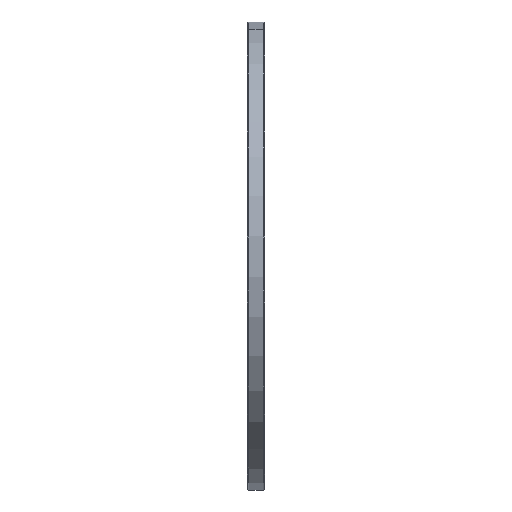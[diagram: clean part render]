
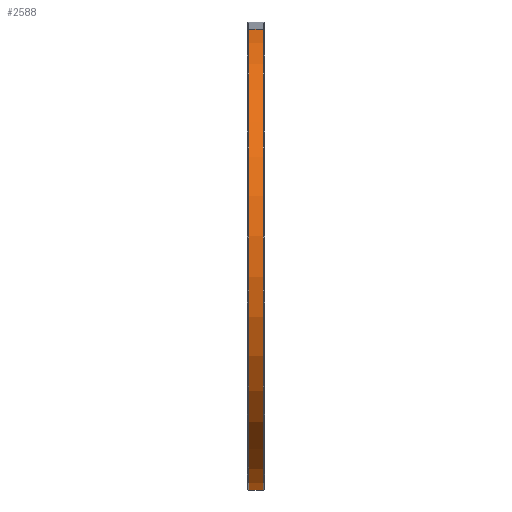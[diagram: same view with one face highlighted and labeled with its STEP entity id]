
A CAD part, left-side view. The second image highlights one B-rep face of the part: STEP entity #2588.
In plain terms, the highlighted cylindrical face has radius 162.83 mm (diameter 325.66 mm), a partial arc.
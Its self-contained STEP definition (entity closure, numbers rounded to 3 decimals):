
#833 = CARTESIAN_POINT ( 'NONE',  ( 0., 11., 0. ) ) ;
#1131 = DIRECTION ( 'NONE',  ( 0., -1., 0. ) ) ;
#1467 = VERTEX_POINT ( 'NONE', #5600 ) ;
#1664 = CARTESIAN_POINT ( 'NONE',  ( 0., 1., 0. ) ) ;
#1677 = EDGE_CURVE ( 'NONE', #4303, #4279, #2002, .T. ) ;
#1862 = ORIENTED_EDGE ( 'NONE', *, *, #3821, .T. ) ;
#2002 = CIRCLE ( 'NONE', #5078, 162.83 ) ;
#2020 = AXIS2_PLACEMENT_3D ( 'NONE', #5466, #1131, #3285 ) ;
#2101 = CARTESIAN_POINT ( 'NONE',  ( -42.429, 0., 157.205 ) ) ;
#2299 = CARTESIAN_POINT ( 'NONE',  ( -42.429, 1., 157.205 ) ) ;
#2370 = ORIENTED_EDGE ( 'NONE', *, *, #1677, .T. ) ;
#2535 = LINE ( 'NONE', #2101, #3129 ) ;
#2555 = CARTESIAN_POINT ( 'NONE',  ( -42.429, 11., 157.205 ) ) ;
#2562 = DIRECTION ( 'NONE',  ( 0., -1., 0. ) ) ;
#2588 = ADVANCED_FACE ( 'NONE', ( #2685 ), #2714, .T. ) ;
#2647 = DIRECTION ( 'NONE',  ( -0.261, 0., 0.965 ) ) ;
#2649 = EDGE_LOOP ( 'NONE', ( #2370, #1862, #3776, #4411 ) ) ;
#2685 = FACE_OUTER_BOUND ( 'NONE', #2649, .T. ) ;
#2714 = CYLINDRICAL_SURFACE ( 'NONE', #2020, 162.83 ) ;
#2863 = AXIS2_PLACEMENT_3D ( 'NONE', #1664, #5163, #4708 ) ;
#3030 = CIRCLE ( 'NONE', #2863, 162.83 ) ;
#3120 = EDGE_CURVE ( 'NONE', #3917, #1467, #3030, .T. ) ;
#3129 = VECTOR ( 'NONE', #2562, 1000. ) ;
#3195 = EDGE_CURVE ( 'NONE', #4303, #3917, #2535, .T. ) ;
#3234 = VECTOR ( 'NONE', #3359, 1000. ) ;
#3285 = DIRECTION ( 'NONE',  ( -0.261, 0., 0.965 ) ) ;
#3359 = DIRECTION ( 'NONE',  ( 0., -1., 0. ) ) ;
#3776 = ORIENTED_EDGE ( 'NONE', *, *, #3120, .F. ) ;
#3821 = EDGE_CURVE ( 'NONE', #4279, #1467, #5154, .T. ) ;
#3917 = VERTEX_POINT ( 'NONE', #2299 ) ;
#4279 = VERTEX_POINT ( 'NONE', #4327 ) ;
#4303 = VERTEX_POINT ( 'NONE', #2555 ) ;
#4327 = CARTESIAN_POINT ( 'NONE',  ( 42.429, 11., -157.205 ) ) ;
#4411 = ORIENTED_EDGE ( 'NONE', *, *, #3195, .F. ) ;
#4708 = DIRECTION ( 'NONE',  ( -0.261, 0., 0.965 ) ) ;
#5078 = AXIS2_PLACEMENT_3D ( 'NONE', #833, #5153, #2647 ) ;
#5153 = DIRECTION ( 'NONE',  ( 0., -1., 0. ) ) ;
#5154 = LINE ( 'NONE', #5517, #3234 ) ;
#5163 = DIRECTION ( 'NONE',  ( 0., -1., 0. ) ) ;
#5466 = CARTESIAN_POINT ( 'NONE',  ( 0., 0., 0. ) ) ;
#5517 = CARTESIAN_POINT ( 'NONE',  ( 42.429, 0., -157.205 ) ) ;
#5600 = CARTESIAN_POINT ( 'NONE',  ( 42.429, 1., -157.205 ) ) ;
